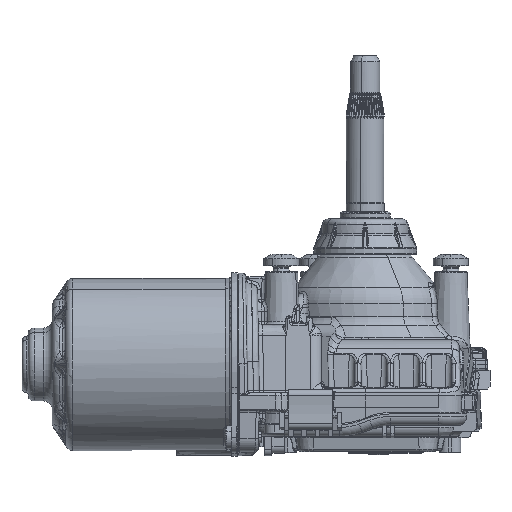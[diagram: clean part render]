
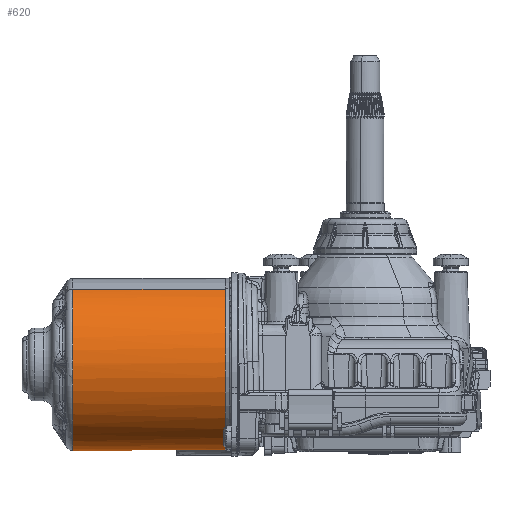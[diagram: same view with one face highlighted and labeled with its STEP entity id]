
A CAD part, front view. The second image highlights one B-rep face of the part: STEP entity #620.
In plain terms, the highlighted cylindrical face has radius 29.25 mm (diameter 58.5 mm), a partial arc.
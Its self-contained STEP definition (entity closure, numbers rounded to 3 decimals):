
#466=AXIS2_PLACEMENT_3D('Cylinder Axis2P3D',#463,#464,#465) ;
#470=AXIS2_PLACEMENT_3D('Circle Axis2P3D',#468,#469,$) ;
#479=AXIS2_PLACEMENT_3D('Circle Axis2P3D',#477,#478,$) ;
#486=AXIS2_PLACEMENT_3D('Circle Axis2P3D',#484,#485,$) ;
#493=AXIS2_PLACEMENT_3D('Circle Axis2P3D',#491,#492,$) ;
#500=AXIS2_PLACEMENT_3D('Circle Axis2P3D',#498,#499,$) ;
#507=AXIS2_PLACEMENT_3D('Circle Axis2P3D',#505,#506,$) ;
#514=AXIS2_PLACEMENT_3D('Circle Axis2P3D',#512,#513,$) ;
#521=AXIS2_PLACEMENT_3D('Circle Axis2P3D',#519,#520,$) ;
#528=AXIS2_PLACEMENT_3D('Circle Axis2P3D',#526,#527,$) ;
#535=AXIS2_PLACEMENT_3D('Circle Axis2P3D',#533,#534,$) ;
#542=AXIS2_PLACEMENT_3D('Circle Axis2P3D',#540,#541,$) ;
#549=AXIS2_PLACEMENT_3D('Circle Axis2P3D',#547,#548,$) ;
#556=AXIS2_PLACEMENT_3D('Circle Axis2P3D',#554,#555,$) ;
#563=AXIS2_PLACEMENT_3D('Circle Axis2P3D',#561,#562,$) ;
#570=AXIS2_PLACEMENT_3D('Circle Axis2P3D',#568,#569,$) ;
#575=AXIS2_PLACEMENT_3D('Circle Axis2P3D',#573,#574,$) ;
#580=AXIS2_PLACEMENT_3D('Circle Axis2P3D',#578,#579,$) ;
#587=AXIS2_PLACEMENT_3D('Circle Axis2P3D',#585,#586,$) ;
#594=AXIS2_PLACEMENT_3D('Circle Axis2P3D',#592,#593,$) ;
#115=CARTESIAN_POINT('Vertex',(-99.5,-14.023,25.669)) ;
#118=CARTESIAN_POINT('Line Origine',(-116.,-14.023,25.669)) ;
#122=CARTESIAN_POINT('Vertex',(-47.5,-14.023,25.669)) ;
#129=CARTESIAN_POINT('Vertex',(-47.5,14.023,-25.669)) ;
#132=CARTESIAN_POINT('Line Origine',(-116.,14.023,-25.669)) ;
#136=CARTESIAN_POINT('Vertex',(-99.5,14.023,-25.669)) ;
#463=CARTESIAN_POINT('Axis2P3D Location',(-116.,0.,0.)) ;
#468=CARTESIAN_POINT('Axis2P3D Location',(-99.5,0.,0.)) ;
#472=CARTESIAN_POINT('Vertex',(-99.5,-20.983,20.378)) ;
#474=CARTESIAN_POINT('Vertex',(-99.5,-20.988,20.374)) ;
#477=CARTESIAN_POINT('Axis2P3D Location',(-99.5,0.,0.)) ;
#481=CARTESIAN_POINT('Vertex',(-99.5,-29.247,0.43)) ;
#484=CARTESIAN_POINT('Axis2P3D Location',(-99.5,0.,0.)) ;
#488=CARTESIAN_POINT('Vertex',(-99.5,-29.247,0.427)) ;
#491=CARTESIAN_POINT('Axis2P3D Location',(-99.5,0.,0.)) ;
#495=CARTESIAN_POINT('Vertex',(-99.5,-29.247,-0.427)) ;
#498=CARTESIAN_POINT('Axis2P3D Location',(-99.5,0.,0.)) ;
#502=CARTESIAN_POINT('Vertex',(-99.5,-29.247,-0.43)) ;
#505=CARTESIAN_POINT('Axis2P3D Location',(-99.5,0.,0.)) ;
#509=CARTESIAN_POINT('Vertex',(-99.5,-20.985,-20.377)) ;
#512=CARTESIAN_POINT('Axis2P3D Location',(-99.5,0.,0.)) ;
#516=CARTESIAN_POINT('Vertex',(-99.5,-20.984,-20.378)) ;
#519=CARTESIAN_POINT('Axis2P3D Location',(-99.5,0.,0.)) ;
#523=CARTESIAN_POINT('Vertex',(-99.5,-20.983,-20.378)) ;
#526=CARTESIAN_POINT('Axis2P3D Location',(-99.5,0.,0.)) ;
#530=CARTESIAN_POINT('Vertex',(-99.5,-20.378,-20.983)) ;
#533=CARTESIAN_POINT('Axis2P3D Location',(-99.5,0.,0.)) ;
#537=CARTESIAN_POINT('Vertex',(-99.5,-20.377,-20.985)) ;
#540=CARTESIAN_POINT('Axis2P3D Location',(-99.5,0.,0.)) ;
#544=CARTESIAN_POINT('Vertex',(-99.5,-0.43,-29.247)) ;
#547=CARTESIAN_POINT('Axis2P3D Location',(-99.5,0.,0.)) ;
#551=CARTESIAN_POINT('Vertex',(-99.5,-0.427,-29.247)) ;
#554=CARTESIAN_POINT('Axis2P3D Location',(-99.5,0.,0.)) ;
#558=CARTESIAN_POINT('Vertex',(-99.5,0.427,-29.247)) ;
#561=CARTESIAN_POINT('Axis2P3D Location',(-99.5,0.,0.)) ;
#565=CARTESIAN_POINT('Vertex',(-99.5,0.43,-29.247)) ;
#568=CARTESIAN_POINT('Axis2P3D Location',(-99.5,0.,0.)) ;
#573=CARTESIAN_POINT('Axis2P3D Location',(-47.5,0.,0.)) ;
#578=CARTESIAN_POINT('Axis2P3D Location',(-99.5,0.,0.)) ;
#582=CARTESIAN_POINT('Vertex',(-99.5,-20.377,20.985)) ;
#585=CARTESIAN_POINT('Axis2P3D Location',(-99.5,0.,0.)) ;
#589=CARTESIAN_POINT('Vertex',(-99.5,-20.378,20.983)) ;
#592=CARTESIAN_POINT('Axis2P3D Location',(-99.5,0.,0.)) ;
#119=DIRECTION('Vector Direction',(1.,0.,0.)) ;
#133=DIRECTION('Vector Direction',(1.,0.,0.)) ;
#464=DIRECTION('Axis2P3D Direction',(1.,0.,0.)) ;
#465=DIRECTION('Axis2P3D XDirection',(0.,-0.479,0.878)) ;
#469=DIRECTION('Axis2P3D Direction',(1.,0.,0.)) ;
#478=DIRECTION('Axis2P3D Direction',(1.,0.,0.)) ;
#485=DIRECTION('Axis2P3D Direction',(1.,0.,0.)) ;
#492=DIRECTION('Axis2P3D Direction',(1.,0.,0.)) ;
#499=DIRECTION('Axis2P3D Direction',(1.,0.,0.)) ;
#506=DIRECTION('Axis2P3D Direction',(1.,0.,0.)) ;
#513=DIRECTION('Axis2P3D Direction',(1.,0.,0.)) ;
#520=DIRECTION('Axis2P3D Direction',(1.,0.,0.)) ;
#527=DIRECTION('Axis2P3D Direction',(1.,0.,0.)) ;
#534=DIRECTION('Axis2P3D Direction',(1.,0.,0.)) ;
#541=DIRECTION('Axis2P3D Direction',(1.,0.,0.)) ;
#548=DIRECTION('Axis2P3D Direction',(1.,0.,0.)) ;
#555=DIRECTION('Axis2P3D Direction',(1.,0.,0.)) ;
#562=DIRECTION('Axis2P3D Direction',(1.,0.,0.)) ;
#569=DIRECTION('Axis2P3D Direction',(1.,0.,0.)) ;
#574=DIRECTION('Axis2P3D Direction',(1.,0.,0.)) ;
#579=DIRECTION('Axis2P3D Direction',(1.,0.,0.)) ;
#586=DIRECTION('Axis2P3D Direction',(1.,0.,0.)) ;
#593=DIRECTION('Axis2P3D Direction',(1.,0.,0.)) ;
#120=VECTOR('Line Direction',#119,1.) ;
#134=VECTOR('Line Direction',#133,1.) ;
#598=ORIENTED_EDGE('',*,*,#476,.T.) ;
#599=ORIENTED_EDGE('',*,*,#483,.T.) ;
#600=ORIENTED_EDGE('',*,*,#490,.F.) ;
#601=ORIENTED_EDGE('',*,*,#497,.T.) ;
#602=ORIENTED_EDGE('',*,*,#504,.T.) ;
#603=ORIENTED_EDGE('',*,*,#511,.T.) ;
#604=ORIENTED_EDGE('',*,*,#518,.F.) ;
#605=ORIENTED_EDGE('',*,*,#525,.F.) ;
#606=ORIENTED_EDGE('',*,*,#532,.T.) ;
#607=ORIENTED_EDGE('',*,*,#539,.T.) ;
#608=ORIENTED_EDGE('',*,*,#546,.T.) ;
#609=ORIENTED_EDGE('',*,*,#553,.F.) ;
#610=ORIENTED_EDGE('',*,*,#560,.T.) ;
#611=ORIENTED_EDGE('',*,*,#567,.T.) ;
#612=ORIENTED_EDGE('',*,*,#572,.T.) ;
#613=ORIENTED_EDGE('',*,*,#138,.T.) ;
#614=ORIENTED_EDGE('',*,*,#577,.F.) ;
#615=ORIENTED_EDGE('',*,*,#124,.F.) ;
#616=ORIENTED_EDGE('',*,*,#584,.T.) ;
#617=ORIENTED_EDGE('',*,*,#591,.F.) ;
#618=ORIENTED_EDGE('',*,*,#596,.T.) ;
#620=ADVANCED_FACE('PartBody',(#619),#467,.T.) ;
#471=CIRCLE('generated circle',#470,29.25) ;
#480=CIRCLE('generated circle',#479,29.25) ;
#487=CIRCLE('generated circle',#486,29.25) ;
#494=CIRCLE('generated circle',#493,29.25) ;
#501=CIRCLE('generated circle',#500,29.25) ;
#508=CIRCLE('generated circle',#507,29.25) ;
#515=CIRCLE('generated circle',#514,29.25) ;
#522=CIRCLE('generated circle',#521,29.25) ;
#529=CIRCLE('generated circle',#528,29.25) ;
#536=CIRCLE('generated circle',#535,29.25) ;
#543=CIRCLE('generated circle',#542,29.25) ;
#550=CIRCLE('generated circle',#549,29.25) ;
#557=CIRCLE('generated circle',#556,29.25) ;
#564=CIRCLE('generated circle',#563,29.25) ;
#571=CIRCLE('generated circle',#570,29.25) ;
#576=CIRCLE('generated circle',#575,29.25) ;
#581=CIRCLE('generated circle',#580,29.25) ;
#588=CIRCLE('generated circle',#587,29.25) ;
#595=CIRCLE('generated circle',#594,29.25) ;
#467=CYLINDRICAL_SURFACE('generated cylinder',#466,29.25) ;
#124=EDGE_CURVE('',#116,#123,#121,.T.) ;
#138=EDGE_CURVE('',#137,#130,#135,.T.) ;
#476=EDGE_CURVE('',#473,#475,#471,.T.) ;
#483=EDGE_CURVE('',#475,#482,#480,.T.) ;
#490=EDGE_CURVE('',#489,#482,#487,.F.) ;
#497=EDGE_CURVE('',#489,#496,#494,.T.) ;
#504=EDGE_CURVE('',#496,#503,#501,.T.) ;
#511=EDGE_CURVE('',#503,#510,#508,.T.) ;
#518=EDGE_CURVE('',#517,#510,#515,.F.) ;
#525=EDGE_CURVE('',#524,#517,#522,.F.) ;
#532=EDGE_CURVE('',#524,#531,#529,.T.) ;
#539=EDGE_CURVE('',#531,#538,#536,.T.) ;
#546=EDGE_CURVE('',#538,#545,#543,.T.) ;
#553=EDGE_CURVE('',#552,#545,#550,.F.) ;
#560=EDGE_CURVE('',#552,#559,#557,.T.) ;
#567=EDGE_CURVE('',#559,#566,#564,.T.) ;
#572=EDGE_CURVE('',#566,#137,#571,.T.) ;
#577=EDGE_CURVE('',#123,#130,#576,.T.) ;
#584=EDGE_CURVE('',#116,#583,#581,.T.) ;
#591=EDGE_CURVE('',#590,#583,#588,.F.) ;
#596=EDGE_CURVE('',#590,#473,#595,.T.) ;
#597=EDGE_LOOP('',(#598,#599,#600,#601,#602,#603,#604,#605,#606,#607,#608,#609,#610,#611,#612,#613,#614,#615,#616,#617,#618)) ;
#619=FACE_OUTER_BOUND('',#597,.T.) ;
#121=LINE('Line',#118,#120) ;
#135=LINE('Line',#132,#134) ;
#116=VERTEX_POINT('',#115) ;
#123=VERTEX_POINT('',#122) ;
#130=VERTEX_POINT('',#129) ;
#137=VERTEX_POINT('',#136) ;
#473=VERTEX_POINT('',#472) ;
#475=VERTEX_POINT('',#474) ;
#482=VERTEX_POINT('',#481) ;
#489=VERTEX_POINT('',#488) ;
#496=VERTEX_POINT('',#495) ;
#503=VERTEX_POINT('',#502) ;
#510=VERTEX_POINT('',#509) ;
#517=VERTEX_POINT('',#516) ;
#524=VERTEX_POINT('',#523) ;
#531=VERTEX_POINT('',#530) ;
#538=VERTEX_POINT('',#537) ;
#545=VERTEX_POINT('',#544) ;
#552=VERTEX_POINT('',#551) ;
#559=VERTEX_POINT('',#558) ;
#566=VERTEX_POINT('',#565) ;
#583=VERTEX_POINT('',#582) ;
#590=VERTEX_POINT('',#589) ;
